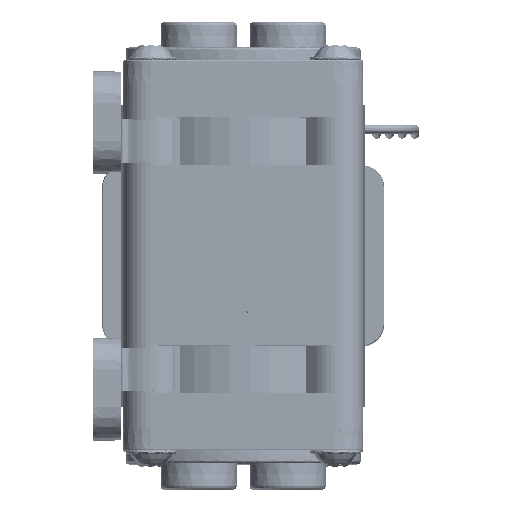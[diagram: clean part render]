
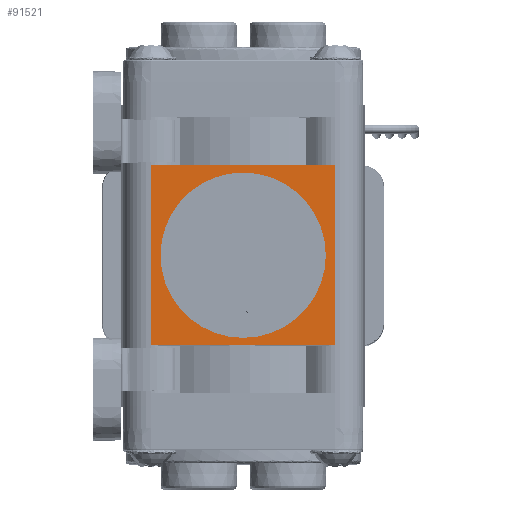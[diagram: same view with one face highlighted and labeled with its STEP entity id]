
A CAD part, top view. The second image highlights one B-rep face of the part: STEP entity #91521.
In plain terms, the highlighted planar face has unit normal (0, 0, 1).
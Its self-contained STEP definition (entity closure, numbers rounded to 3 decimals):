
#643 = CARTESIAN_POINT ( 'NONE',  ( 14.5, 14.2, 21.422 ) ) ;
#2290 = VECTOR ( 'NONE', #146135, 1000. ) ;
#7240 = ORIENTED_EDGE ( 'NONE', *, *, #101324, .T. ) ;
#13640 = CARTESIAN_POINT ( 'NONE',  ( -14.5, -63.987, 21.422 ) ) ;
#13969 = VERTEX_POINT ( 'NONE', #99106 ) ;
#16826 = CARTESIAN_POINT ( 'NONE',  ( 14.5, -63.987, 21.422 ) ) ;
#21513 = PLANE ( 'NONE',  #100475 ) ;
#21913 = ORIENTED_EDGE ( 'NONE', *, *, #122626, .T. ) ;
#22449 = FACE_BOUND ( 'NONE', #124616, .T. ) ;
#23387 = CARTESIAN_POINT ( 'NONE',  ( 14.5, -63.987, 21.422 ) ) ;
#23571 = DIRECTION ( 'NONE',  ( -1., 0., 0. ) ) ;
#24493 = CARTESIAN_POINT ( 'NONE',  ( 0., 0., 21.422 ) ) ;
#27685 = LINE ( 'NONE', #144789, #113962 ) ;
#66170 = DIRECTION ( 'NONE',  ( 0., 0., 1. ) ) ;
#69580 = EDGE_LOOP ( 'NONE', ( #156580, #21913, #7240, #101006 ) ) ;
#80172 = FACE_OUTER_BOUND ( 'NONE', #69580, .T. ) ;
#81097 = DIRECTION ( 'NONE',  ( 0., 0., -1. ) ) ;
#87827 = CARTESIAN_POINT ( 'NONE',  ( 14.5, 14.2, 21.422 ) ) ;
#90535 = DIRECTION ( 'NONE',  ( 0., 1., 0. ) ) ;
#91521 = ADVANCED_FACE ( 'NONE', ( #22449, #80172 ), #21513, .F. ) ;
#94618 = VERTEX_POINT ( 'NONE', #153669 ) ;
#99106 = CARTESIAN_POINT ( 'NONE',  ( 14.5, -14.2, 21.422 ) ) ;
#99697 = DIRECTION ( 'NONE',  ( 0., 1., 0. ) ) ;
#100475 = AXIS2_PLACEMENT_3D ( 'NONE', #23387, #81097, #179211 ) ;
#101006 = ORIENTED_EDGE ( 'NONE', *, *, #167400, .F. ) ;
#101324 = EDGE_CURVE ( 'NONE', #13969, #138984, #146284, .T. ) ;
#101377 = DIRECTION ( 'NONE',  ( 1., 0., 0. ) ) ;
#102720 = CARTESIAN_POINT ( 'NONE',  ( -13., 0., 21.422 ) ) ;
#103640 = LINE ( 'NONE', #643, #2290 ) ;
#113962 = VECTOR ( 'NONE', #101377, 1000. ) ;
#122626 = EDGE_CURVE ( 'NONE', #139608, #13969, #27685, .T. ) ;
#124616 = EDGE_LOOP ( 'NONE', ( #155025 ) ) ;
#126089 = CIRCLE ( 'NONE', #129080, 13. ) ;
#129080 = AXIS2_PLACEMENT_3D ( 'NONE', #24493, #66170, #23571 ) ;
#138984 = VERTEX_POINT ( 'NONE', #87827 ) ;
#139608 = VERTEX_POINT ( 'NONE', #144057 ) ;
#144057 = CARTESIAN_POINT ( 'NONE',  ( -14.5, -14.2, 21.422 ) ) ;
#144789 = CARTESIAN_POINT ( 'NONE',  ( 14.5, -14.2, 21.422 ) ) ;
#146135 = DIRECTION ( 'NONE',  ( 1., 0., 0. ) ) ;
#146284 = LINE ( 'NONE', #16826, #184756 ) ;
#151161 = EDGE_CURVE ( 'NONE', #174449, #174449, #126089, .T. ) ;
#153669 = CARTESIAN_POINT ( 'NONE',  ( -14.5, 14.2, 21.422 ) ) ;
#154017 = EDGE_CURVE ( 'NONE', #139608, #94618, #174187, .T. ) ;
#155025 = ORIENTED_EDGE ( 'NONE', *, *, #151161, .F. ) ;
#156580 = ORIENTED_EDGE ( 'NONE', *, *, #154017, .F. ) ;
#167400 = EDGE_CURVE ( 'NONE', #94618, #138984, #103640, .T. ) ;
#174187 = LINE ( 'NONE', #13640, #179780 ) ;
#174449 = VERTEX_POINT ( 'NONE', #102720 ) ;
#179211 = DIRECTION ( 'NONE',  ( 1., 0., 0. ) ) ;
#179780 = VECTOR ( 'NONE', #99697, 1000. ) ;
#184756 = VECTOR ( 'NONE', #90535, 1000. ) ;
